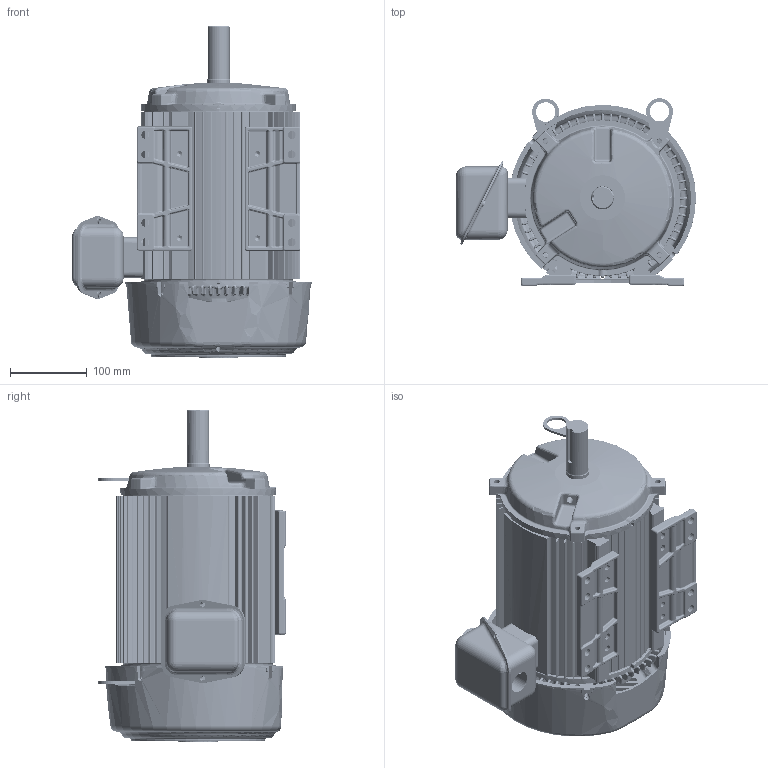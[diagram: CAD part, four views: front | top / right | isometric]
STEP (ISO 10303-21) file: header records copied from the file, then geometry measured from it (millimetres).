
FILE_DESCRIPTION((''),'2;1');
FILE_NAME('STD_SHORT_NON_FLNG_ASM','2019-11-14T10:16:08',('EMD2341'),('Nidec Motor Corporation'),'CREO PARAMETRIC BY PTC INC, 2018300','CREO PARAMETRIC BY PTC INC, 2018300','');
FILE_SCHEMA(('CONFIG_CONTROL_DESIGN'));
Length unit declared in the file: inch
Products named in the file (17): 0919844_AF0; 0374476; 0382071-BKT_AF1; 0298010_AF1; 0384147_ASM; 0361253-BKT_AF17; 0910238_AF2; 0361254_ASM; 0362988; 0361265; 0541983; 0027197; 0919846; 0390920; 0390928; 0390417; STD_SHORT_NON_FLNG_ASM
Assembly tree (18 placements, depth 3):
  STD_SHORT_NON_FLNG_ASM
    0919844_AF0
    0374476  x2
    0384147_ASM
      0382071-BKT_AF1
      0298010_AF1
    0361254_ASM
      0361253-BKT_AF17
      0910238_AF2
    0362988  x2
    0361265
    0541983
    0027197
    0919846
    0390920
    0390928
    0390417
Bounding box: 311.96 x 243.57 x 431.83 mm (x, y, z)
Volume: 2212221.4 mm3; surface area: 1090052.1 mm2
Topology: 18 solids, 20 shells, 5496 faces, 13144 edges, 7641 vertices
Faces by surface type: bspline 2414, cylinder 1247, plane 979, torus 385, cone 265, sphere 206
Entity records: 282532 total; most frequent: CARTESIAN_POINT 179066, ORIENTED_EDGE 24672, DIRECTION 17649, EDGE_CURVE 12340, AXIS2_PLACEMENT_3D 7452, VERTEX_POINT 7207, EDGE_LOOP 5319, FACE_OUTER_BOUND 5154
